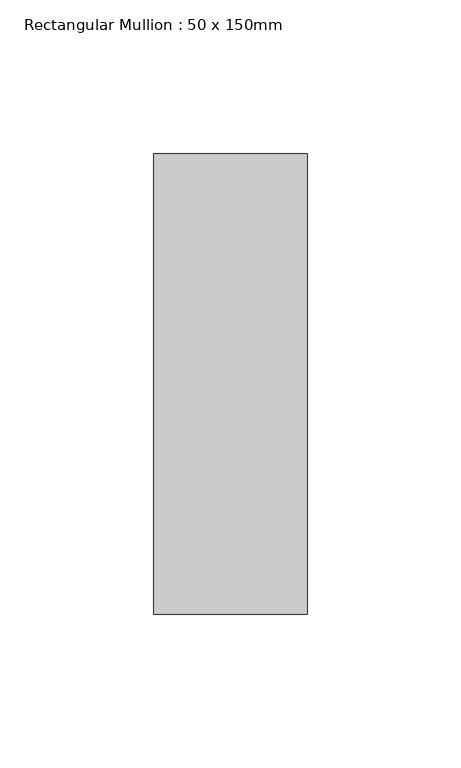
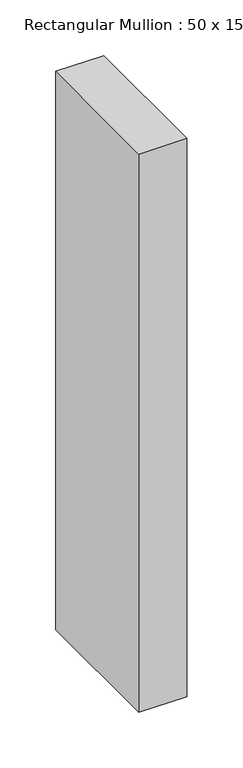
"""IFC4 building model written with IfcOpenShell, lengths in millimetres: member geometry, Rectangular Mullion : 50 x 150mm."""

from ifc_helpers import new_model, si_unit, frame, origin, place, context, project, spatial, polyline, outline, extrude, source, transform, mapped, element, save


def rectangular_mullion_50_x_150mm_7d2f3f35(model_context):
    return source(origin(), model_context, "Body", "SweptSolid", [
        extrude(outline(polyline([(25.0, 75.0), (25.0, -75.0), (-25.0, -75.0), (-25.0, 75.0), (25.0, 75.0)])), frame((0.0, 0.0, -613.3333335), z_axis=(0.0, 0.0, 1.0), x_axis=(1.0, 0.0, 0.0)), (0.0, 0.0, 1.0), 613.3333335),
    ])


if __name__ == "__main__":
    model = new_model("IFC4")
    model_context = context("Model", 3, world=origin())
    ifc_project = project(units=[si_unit("LENGTHUNIT", "METRE", prefix="MILLI")], contexts=[model_context])
    site = spatial("IfcSite", under=ifc_project)
    building = spatial("IfcBuilding", under=site)
    placement = place(None, origin())
    rectangular_mullion_50_x_150mm_shape = rectangular_mullion_50_x_150mm_7d2f3f35(model_context)
    element("IfcMember", 1, ObjectType="Rectangular Mullion : 50 x 150mm", at=placement, inside=building, context=model_context, shape_type="MappedRepresentation", body=[
        mapped(rectangular_mullion_50_x_150mm_shape, transform((0.0, 0.0, 0.0), x_axis=(1.0, 0.0, 0.0), y_axis=(0.0, 1.0, 0.0), z_axis=(0.0, 0.0, 1.0))),
    ])
    save(model, "model.ifc")
